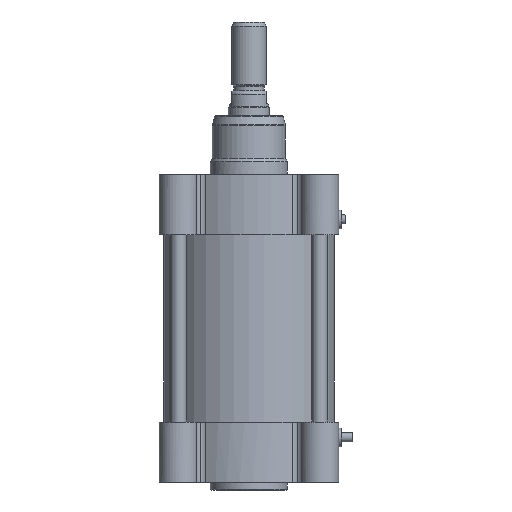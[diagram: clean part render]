
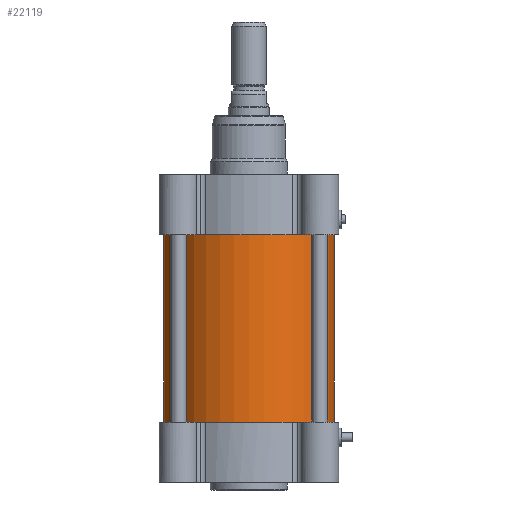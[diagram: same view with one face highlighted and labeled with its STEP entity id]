
A CAD part, front view. The second image highlights one B-rep face of the part: STEP entity #22119.
In plain terms, the highlighted cylindrical face has radius 66.5 mm (diameter 133 mm), a partial arc.
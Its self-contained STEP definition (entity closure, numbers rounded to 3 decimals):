
#3206 = DIRECTION ( 'NONE',  ( -1., 0., 0. ) ) ;
#3397 = ORIENTED_EDGE ( 'NONE', *, *, #32655, .T. ) ;
#3726 = CARTESIAN_POINT ( 'NONE',  ( 0., 0., 146. ) ) ;
#6162 = VERTEX_POINT ( 'NONE', #14394 ) ;
#6275 = LINE ( 'NONE', #28574, #29197 ) ;
#7943 = CARTESIAN_POINT ( 'NONE',  ( -66.5, 0., 146. ) ) ;
#8656 = DIRECTION ( 'NONE',  ( 0., 0., 1. ) ) ;
#13276 = ORIENTED_EDGE ( 'NONE', *, *, #21899, .F. ) ;
#14101 = FACE_OUTER_BOUND ( 'NONE', #25404, .T. ) ;
#14377 = VERTEX_POINT ( 'NONE', #31724 ) ;
#14394 = CARTESIAN_POINT ( 'NONE',  ( -66.5, 0., 0. ) ) ;
#14503 = DIRECTION ( 'NONE',  ( 0., 0., -1. ) ) ;
#15910 = AXIS2_PLACEMENT_3D ( 'NONE', #31018, #14503, #32875 ) ;
#16466 = ORIENTED_EDGE ( 'NONE', *, *, #17979, .F. ) ;
#16561 = CARTESIAN_POINT ( 'NONE',  ( 66.5, 0., 146. ) ) ;
#16820 = CARTESIAN_POINT ( 'NONE',  ( 0., 0., 0. ) ) ;
#17789 = VERTEX_POINT ( 'NONE', #16561 ) ;
#17979 = EDGE_CURVE ( 'NONE', #6162, #26775, #25021, .T. ) ;
#19632 = AXIS2_PLACEMENT_3D ( 'NONE', #3726, #23849, #26403 ) ;
#19892 = VECTOR ( 'NONE', #22662, 1000. ) ;
#21054 = EDGE_CURVE ( 'NONE', #14377, #17789, #6275, .T. ) ;
#21143 = CIRCLE ( 'NONE', #15910, 66.5 ) ;
#21899 = EDGE_CURVE ( 'NONE', #14377, #6162, #21143, .T. ) ;
#22119 = ADVANCED_FACE ( 'NONE', ( #14101 ), #33157, .T. ) ;
#22662 = DIRECTION ( 'NONE',  ( 0., 0., 1. ) ) ;
#23849 = DIRECTION ( 'NONE',  ( 0., 0., -1. ) ) ;
#25021 = LINE ( 'NONE', #33182, #19892 ) ;
#25404 = EDGE_LOOP ( 'NONE', ( #13276, #25895, #3397, #16466 ) ) ;
#25696 = DIRECTION ( 'NONE',  ( 0., 0., 1. ) ) ;
#25895 = ORIENTED_EDGE ( 'NONE', *, *, #21054, .T. ) ;
#26403 = DIRECTION ( 'NONE',  ( -1., 0., 0. ) ) ;
#26775 = VERTEX_POINT ( 'NONE', #7943 ) ;
#28296 = CIRCLE ( 'NONE', #19632, 66.5 ) ;
#28574 = CARTESIAN_POINT ( 'NONE',  ( 66.5, 0., 0. ) ) ;
#29197 = VECTOR ( 'NONE', #25696, 1000. ) ;
#31000 = AXIS2_PLACEMENT_3D ( 'NONE', #16820, #8656, #3206 ) ;
#31018 = CARTESIAN_POINT ( 'NONE',  ( 0., 0., 0. ) ) ;
#31724 = CARTESIAN_POINT ( 'NONE',  ( 66.5, 0., 0. ) ) ;
#32655 = EDGE_CURVE ( 'NONE', #17789, #26775, #28296, .T. ) ;
#32875 = DIRECTION ( 'NONE',  ( -1., 0., 0. ) ) ;
#33157 = CYLINDRICAL_SURFACE ( 'NONE', #31000, 66.5 ) ;
#33182 = CARTESIAN_POINT ( 'NONE',  ( -66.5, 0., 0. ) ) ;
